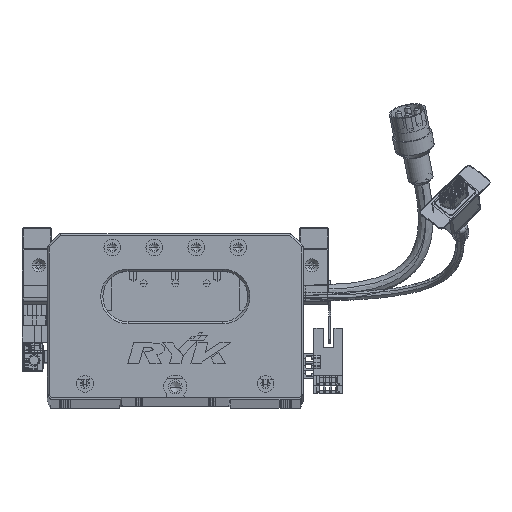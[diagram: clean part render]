
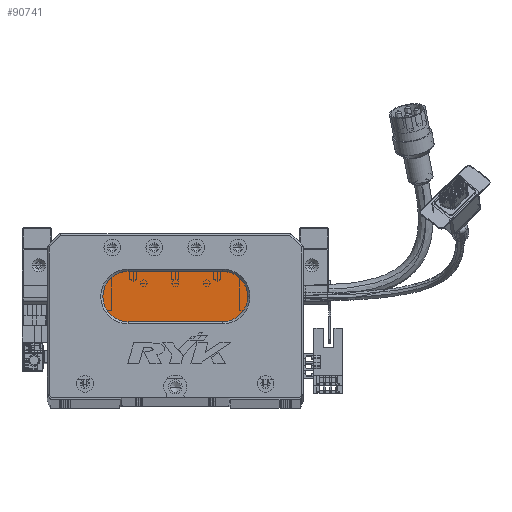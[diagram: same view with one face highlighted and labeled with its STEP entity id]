
A CAD part, top view. The second image highlights one B-rep face of the part: STEP entity #90741.
In plain terms, the highlighted planar face has unit normal (0, 0, 1) as drawn and (0, 0, -1) by its records, which use the part's own axes.
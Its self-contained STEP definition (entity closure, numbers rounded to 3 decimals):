
#1777 = CARTESIAN_POINT ( 'NONE',  ( 26.5, 48., 13. ) ) ;
#2637 = AXIS2_PLACEMENT_3D ( 'NONE', #8189, #62982, #71261 ) ;
#4056 = DIRECTION ( 'NONE',  ( 0., 0., -1. ) ) ;
#6019 = VERTEX_POINT ( 'NONE', #88594 ) ;
#7348 = DIRECTION ( 'NONE',  ( -1., 0., 0. ) ) ;
#8189 = CARTESIAN_POINT ( 'NONE',  ( 83.5, 48., 13. ) ) ;
#12320 = CARTESIAN_POINT ( 'NONE',  ( 83.5, 36., 13. ) ) ;
#12440 = ORIENTED_EDGE ( 'NONE', *, *, #54699, .T. ) ;
#13474 = DIRECTION ( 'NONE',  ( -1., 0., 0. ) ) ;
#13553 = EDGE_CURVE ( 'NONE', #86075, #6019, #86649, .T. ) ;
#22144 = ORIENTED_EDGE ( 'NONE', *, *, #13553, .T. ) ;
#28657 = ORIENTED_EDGE ( 'NONE', *, *, #41861, .T. ) ;
#31055 = VERTEX_POINT ( 'NONE', #1777 ) ;
#31823 = VECTOR ( 'NONE', #7348, 1000. ) ;
#36338 = DIRECTION ( 'NONE',  ( -1., 0., 0. ) ) ;
#37307 = CARTESIAN_POINT ( 'NONE',  ( 38.5, 48., 13. ) ) ;
#37568 = VERTEX_POINT ( 'NONE', #12320 ) ;
#40122 = CARTESIAN_POINT ( 'NONE',  ( 83.5, 48., 13. ) ) ;
#41861 = EDGE_CURVE ( 'NONE', #6019, #37568, #103743, .T. ) ;
#44173 = AXIS2_PLACEMENT_3D ( 'NONE', #40122, #4056, #13474 ) ;
#45751 = DIRECTION ( 'NONE',  ( 0., 0., -1. ) ) ;
#52414 = PLANE ( 'NONE',  #2637 ) ;
#54699 = EDGE_CURVE ( 'NONE', #37568, #91141, #58536, .T. ) ;
#58222 = CARTESIAN_POINT ( 'NONE',  ( 38.5, 36., 13. ) ) ;
#58536 = LINE ( 'NONE', #60589, #31823 ) ;
#59725 = CARTESIAN_POINT ( 'NONE',  ( 38.5, 60., 13. ) ) ;
#60589 = CARTESIAN_POINT ( 'NONE',  ( 83.5, 36., 13. ) ) ;
#62982 = DIRECTION ( 'NONE',  ( 0., 0., -1. ) ) ;
#63582 = CIRCLE ( 'NONE', #96038, 12. ) ;
#66585 = CARTESIAN_POINT ( 'NONE',  ( 83.5, 60., 13. ) ) ;
#68425 = FACE_OUTER_BOUND ( 'NONE', #69215, .T. ) ;
#69215 = EDGE_LOOP ( 'NONE', ( #28657, #12440, #114989, #75501, #22144 ) ) ;
#71261 = DIRECTION ( 'NONE',  ( -1., 0., 0. ) ) ;
#75259 = DIRECTION ( 'NONE',  ( 1., 0., 0. ) ) ;
#75501 = ORIENTED_EDGE ( 'NONE', *, *, #114749, .T. ) ;
#78188 = VECTOR ( 'NONE', #75259, 1000. ) ;
#82540 = CARTESIAN_POINT ( 'NONE',  ( 38.5, 48., 13. ) ) ;
#86075 = VERTEX_POINT ( 'NONE', #59725 ) ;
#86649 = LINE ( 'NONE', #66585, #78188 ) ;
#88594 = CARTESIAN_POINT ( 'NONE',  ( 83.5, 60., 13. ) ) ;
#90741 = ADVANCED_FACE ( 'NONE', ( #68425 ), #52414, .T. ) ;
#91141 = VERTEX_POINT ( 'NONE', #58222 ) ;
#91779 = DIRECTION ( 'NONE',  ( -1., 0., 0. ) ) ;
#96038 = AXIS2_PLACEMENT_3D ( 'NONE', #37307, #99599, #91779 ) ;
#99599 = DIRECTION ( 'NONE',  ( 0., 0., -1. ) ) ;
#103743 = CIRCLE ( 'NONE', #44173, 12. ) ;
#105336 = EDGE_CURVE ( 'NONE', #91141, #31055, #105699, .T. ) ;
#105699 = CIRCLE ( 'NONE', #111069, 12. ) ;
#111069 = AXIS2_PLACEMENT_3D ( 'NONE', #82540, #45751, #36338 ) ;
#114749 = EDGE_CURVE ( 'NONE', #31055, #86075, #63582, .T. ) ;
#114989 = ORIENTED_EDGE ( 'NONE', *, *, #105336, .T. ) ;
